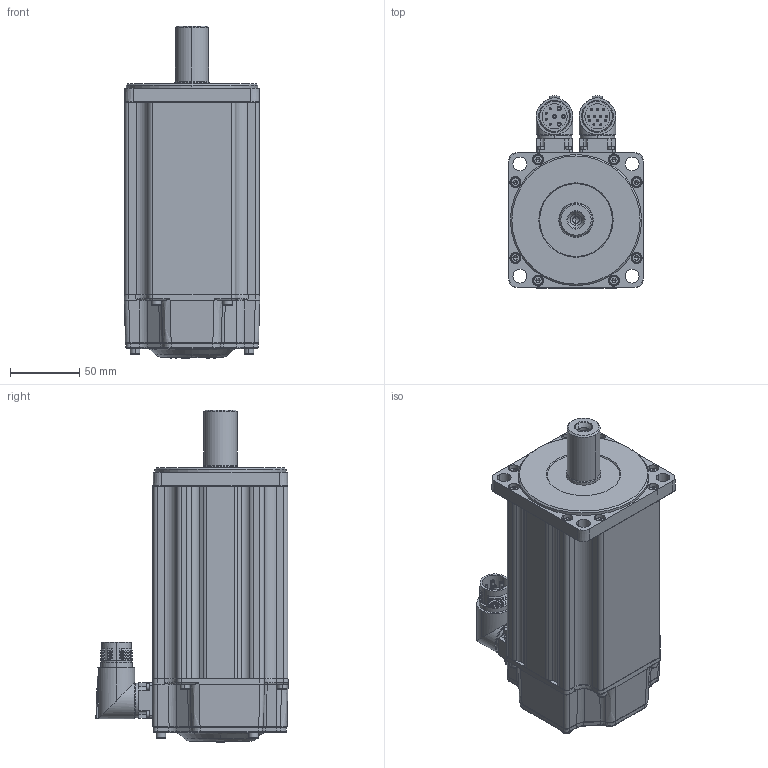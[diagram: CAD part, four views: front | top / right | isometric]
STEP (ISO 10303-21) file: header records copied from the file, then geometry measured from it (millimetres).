
FILE_DESCRIPTION (( 'STEP AP203' ), '1' );
FILE_NAME ('MC20-100-3L30-N152-1¡õPL-NNNN.STEP', '2025-07-29T14:47:50', ( '' ), ( '' ), 'SwSTEP 2.0', 'SolidWorks 2014', '' );
FILE_SCHEMA (( 'CONFIG_CONTROL_DESIGN' ));
Length unit declared in the file: millimetre
Products named in the file (1): MC20-100-3L30-N152-1¡õPL-NNNN
Bounding box: 98.04 x 139.27 x 240.49 mm (x, y, z)
Volume: 1800513.3 mm3; surface area: 206281.6 mm2
Topology: 31 solids, 31 shells, 2062 faces, 4785 edges, 2837 vertices
Faces by surface type: plane 759, cylinder 542, cone 363, bspline 211, torus 182, sphere 5
Entity records: 64362 total; most frequent: CARTESIAN_POINT 18685, DIRECTION 9633, ORIENTED_EDGE 9382, EDGE_CURVE 4691, AXIS2_PLACEMENT_3D 3761, VERTEX_POINT 2837, EDGE_LOOP 2280, VECTOR 2111
